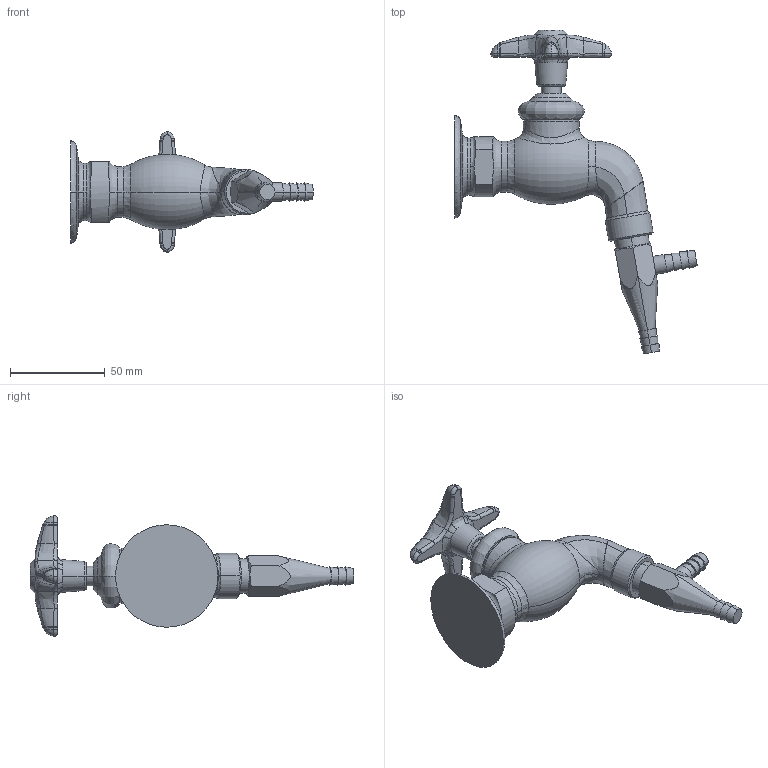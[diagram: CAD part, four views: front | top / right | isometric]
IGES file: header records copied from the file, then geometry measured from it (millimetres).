
Start section:  PTC IGES file: LWV3-B33.igs
Global section: file name: LWV3-B33.igs; native system: Creo Parametric by PTC Inc.; preprocessor: 2014500; author: usch_engrender; organization: Unknown; date: 20150910.121556; units: inch
Bounding box: 127.69 x 170.49 x 63.42 mm (x, y, z)
Volume: 133507.4 mm3; surface area: 26595.5 mm2
Topology: 1 solids, 4 shells, 273 faces, 600 edges, 349 vertices
Faces by surface type: bspline 187, revolution 86
